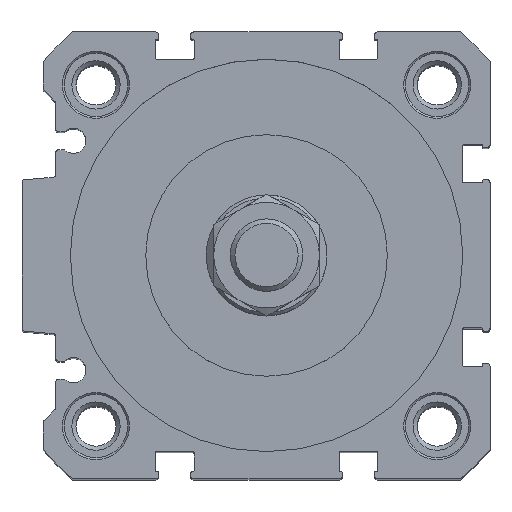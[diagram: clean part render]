
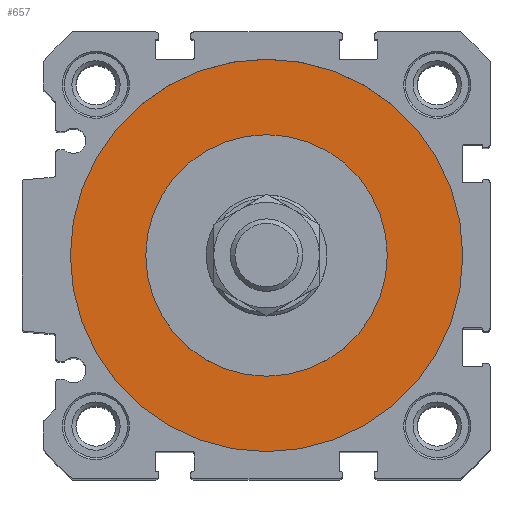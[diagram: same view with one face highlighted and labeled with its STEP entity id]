
A CAD part, top view. The second image highlights one B-rep face of the part: STEP entity #657.
In plain terms, the highlighted planar face has unit normal (0, 0, 1).
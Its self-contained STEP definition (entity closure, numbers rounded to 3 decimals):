
#657 = ADVANCED_FACE( '', ( #1369, #1370 ), #1371, .T. );
#1369 = FACE_BOUND( '', #2115, .T. );
#1370 = FACE_OUTER_BOUND( '', #2116, .T. );
#1371 = PLANE( '', #2117 );
#2115 = EDGE_LOOP( '', ( #3913 ) );
#2116 = EDGE_LOOP( '', ( #3914 ) );
#2117 = AXIS2_PLACEMENT_3D( '', #3915, #3916, #3917 );
#3913 = ORIENTED_EDGE( '', *, *, #4867, .F. );
#3914 = ORIENTED_EDGE( '', *, *, #4836, .T. );
#3915 = CARTESIAN_POINT( '', ( 0., 0., -5.5 ) );
#3916 = DIRECTION( '', ( 0., 0., 1. ) );
#3917 = DIRECTION( '', ( 1., 0., 0. ) );
#4836 = EDGE_CURVE( '', #5933, #5933, #5934, .T. );
#4867 = EDGE_CURVE( '', #5968, #5968, #5969, .T. );
#5933 = VERTEX_POINT( '', #7445 );
#5934 = CIRCLE( '', #7446, 32.5 );
#5968 = VERTEX_POINT( '', #7491 );
#5969 = CIRCLE( '', #7492, 20. );
#7445 = CARTESIAN_POINT( '', ( 32.5, 0., -5.5 ) );
#7446 = AXIS2_PLACEMENT_3D( '', #8430, #8431, #8432 );
#7491 = CARTESIAN_POINT( '', ( 20., 0., -5.5 ) );
#7492 = AXIS2_PLACEMENT_3D( '', #8451, #8452, #8453 );
#8430 = CARTESIAN_POINT( '', ( 0., 0., -5.5 ) );
#8431 = DIRECTION( '', ( 0., 0., 1. ) );
#8432 = DIRECTION( '', ( 1., 0., 0. ) );
#8451 = CARTESIAN_POINT( '', ( 0., 0., -5.5 ) );
#8452 = DIRECTION( '', ( 0., 0., 1. ) );
#8453 = DIRECTION( '', ( 1., 0., 0. ) );
